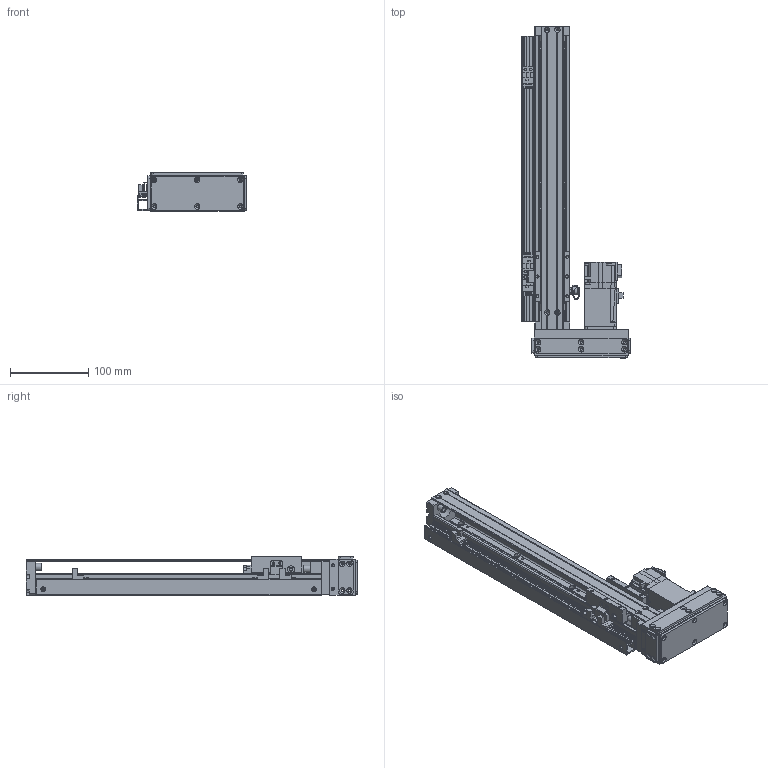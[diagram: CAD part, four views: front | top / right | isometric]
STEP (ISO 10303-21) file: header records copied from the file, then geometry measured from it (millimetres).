
FILE_DESCRIPTION(/* description */ ('MANUFACTURE'),/* implementation_level */ '2;1');
FILE_NAME(/* name */ '\\192.168.0.160\disk1\HAN SHIN Master\B-설계부문\C-표준\B-2024년\BC02-표준도면\+로봇 개선표준도면\표준 승인도 폴더 - 재작업\3D\HG45\병렬-R\HG45-R10-N-0250-L10.stp',/* time_stamp */ '2024-03-05T10:07:46+09:00',/* author */ ('User'),/* organization */ (''),/* preprocessor_version */ 'ST-DEVELOPER v18.1',/* originating_system */ 'Autodesk Inventor 2022',/* authorisation */ 'LIP');
FILE_SCHEMA (('AUTOMOTIVE_DESIGN { 1 0 10303 214 3 1 1 }'));
Products named in the file (21): HG45-L10-N-0500-R10 - 간소화; HR45 S BASE; HR45 REAR BLOCK; HR45 FRONT BLOCK; HR45 STOPPER; HR45 SENSOR RAIL; HC45 - TABLE (SFSR); HR45 UPCOVER-28mm; HR45 MOTOR PLATE 100W; hg-kr13_; 화살표; ESF1210 NUT; HR45 LR BELT COVER; HR45 ACRYL COVER(정면); HR45 ACRYL COVER(측면); HR45 ACRYL COVER(상하면); HC45 L,R MOTOR PLATE_MIR; HR45 SENSOR DOG; NIPPLE CAP(신규); hsr_ftht_A-M6F_grease_nipple_joint; EE_SX674A
Assembly tree (27 placements, depth 2):
  HG45-L10-N-0500-R10 - 간소화
    HR45 S BASE
    HR45 REAR BLOCK
    HR45 FRONT BLOCK
    HR45 STOPPER  x4
    HR45 SENSOR RAIL
    HC45 - TABLE (SFSR)
    HR45 UPCOVER-28mm
    HR45 MOTOR PLATE 100W
    hg-kr13_
    화살표  x2
    EE_SX674A  x3
    ESF1210 NUT
    HR45 LR BELT COVER
    HR45 ACRYL COVER(상하면)  x2
    HR45 ACRYL COVER(정면)
    HR45 ACRYL COVER(측면)
    HC45 L,R MOTOR PLATE_MIR
    HR45 SENSOR DOG
    NIPPLE CAP(신규)
    hsr_ftht_A-M6F_grease_nipple_joint
Bounding box: 139.5 x 424 x 50 mm (x, y, z)
Volume: 556186.5 mm3; surface area: 287643.6 mm2
Topology: 27 solids, 27 shells, 2310 faces, 6328 edges, 4160 vertices
Faces by surface type: plane 1656, cylinder 500, cone 127, bspline 13, sphere 8, torus 6
Full cylindrical faces by diameter (mm): 1 x1, 2.013 x6, 2.459 x74, 2.5 x4, 3 x11, 3.242 x20, 3.4 x36, 3.5 x21, 4 x13, 4.134 x1, 4.5 x14, 4.917 x2, 5.6 x3, 5.9 x2, 6 x20, 6.5 x6, 8 x9, 9 x4, 10 x1, 12 x1, 13 x1, 15 x1, 18 x1, 22 x2, 24 x1, 26 x1, 30 x2
Entity records: 72052 total; most frequent: CARTESIAN_POINT 13893, ORIENTED_EDGE 11776, DIRECTION 11186, EDGE_CURVE 5888, LINE 4660, VECTOR 4660, VERTEX_POINT 3913, AXIS2_PLACEMENT_3D 3263
